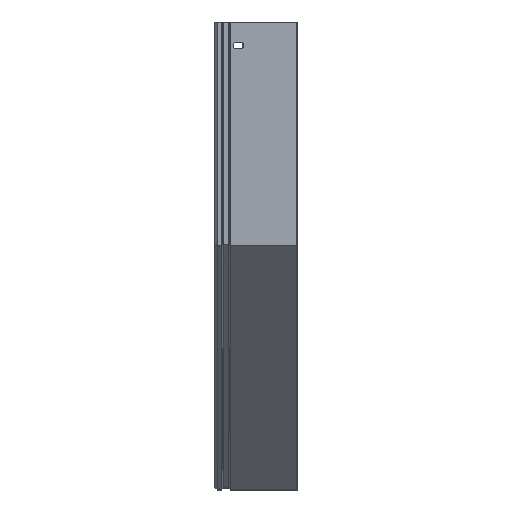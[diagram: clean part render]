
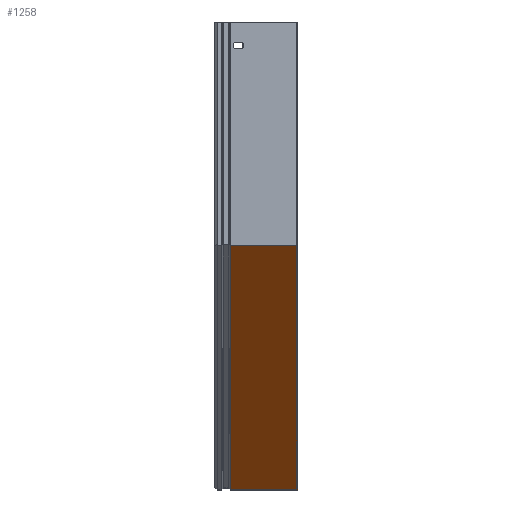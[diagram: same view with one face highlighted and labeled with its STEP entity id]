
A CAD part, left-side view. The second image highlights one B-rep face of the part: STEP entity #1258.
In plain terms, the highlighted planar face has unit normal (-0.707, 0, -0.707).
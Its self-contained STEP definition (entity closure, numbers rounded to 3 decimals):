
#8 = CARTESIAN_POINT ( 'NONE',  ( -560.742, 79.5, 292.742 ) ) ;
#245 = DIRECTION ( 'NONE',  ( 0.707, 0., 0.707 ) ) ;
#273 = CARTESIAN_POINT ( 'NONE',  ( -268., 0., 0. ) ) ;
#284 = CARTESIAN_POINT ( 'NONE',  ( -268., -1., 0. ) ) ;
#391 = ORIENTED_EDGE ( 'NONE', *, *, #525, .F. ) ;
#407 = CARTESIAN_POINT ( 'NONE',  ( -268., 79.5, 0. ) ) ;
#412 = CARTESIAN_POINT ( 'NONE',  ( -268., -1., 0. ) ) ;
#525 = EDGE_CURVE ( 'NONE', #1748, #4628, #3179, .T. ) ;
#586 = ORIENTED_EDGE ( 'NONE', *, *, #4950, .T. ) ;
#773 = PLANE ( 'NONE',  #4517 ) ;
#820 = DIRECTION ( 'NONE',  ( -0.707, 0., 0.707 ) ) ;
#841 = CARTESIAN_POINT ( 'NONE',  ( -268., 79.5, 0. ) ) ;
#1096 = FACE_OUTER_BOUND ( 'NONE', #3006, .T. ) ;
#1209 = EDGE_CURVE ( 'NONE', #4628, #2526, #2358, .T. ) ;
#1258 = ADVANCED_FACE ( 'NONE', ( #1096 ), #773, .F. ) ;
#1376 = VERTEX_POINT ( 'NONE', #412 ) ;
#1725 = VECTOR ( 'NONE', #5295, 1000. ) ;
#1748 = VERTEX_POINT ( 'NONE', #841 ) ;
#2067 = VECTOR ( 'NONE', #820, 1000. ) ;
#2358 = LINE ( 'NONE', #4806, #1725 ) ;
#2526 = VERTEX_POINT ( 'NONE', #3895 ) ;
#2634 = ORIENTED_EDGE ( 'NONE', *, *, #4460, .F. ) ;
#2701 = LINE ( 'NONE', #5197, #3496 ) ;
#3006 = EDGE_LOOP ( 'NONE', ( #3422, #391, #2634, #586 ) ) ;
#3179 = LINE ( 'NONE', #407, #2067 ) ;
#3422 = ORIENTED_EDGE ( 'NONE', *, *, #1209, .F. ) ;
#3496 = VECTOR ( 'NONE', #4360, 1000. ) ;
#3895 = CARTESIAN_POINT ( 'NONE',  ( -560.742, -1., 292.742 ) ) ;
#4360 = DIRECTION ( 'NONE',  ( 0., 1., 0. ) ) ;
#4399 = DIRECTION ( 'NONE',  ( 0.707, 0., -0.707 ) ) ;
#4460 = EDGE_CURVE ( 'NONE', #1376, #1748, #2701, .T. ) ;
#4517 = AXIS2_PLACEMENT_3D ( 'NONE', #273, #245, #4399 ) ;
#4628 = VERTEX_POINT ( 'NONE', #8 ) ;
#4806 = CARTESIAN_POINT ( 'NONE',  ( -560.742, 0., 292.742 ) ) ;
#4950 = EDGE_CURVE ( 'NONE', #1376, #2526, #5308, .T. ) ;
#4962 = VECTOR ( 'NONE', #5223, 1000. ) ;
#5197 = CARTESIAN_POINT ( 'NONE',  ( -268., 0., 0. ) ) ;
#5223 = DIRECTION ( 'NONE',  ( -0.707, 0., 0.707 ) ) ;
#5295 = DIRECTION ( 'NONE',  ( 0., -1., 0. ) ) ;
#5308 = LINE ( 'NONE', #284, #4962 ) ;
